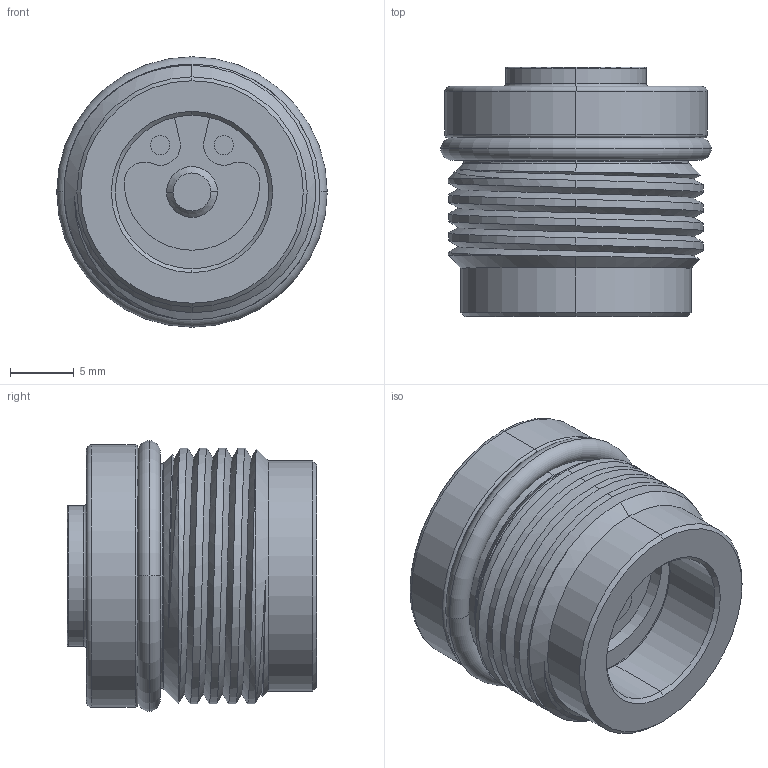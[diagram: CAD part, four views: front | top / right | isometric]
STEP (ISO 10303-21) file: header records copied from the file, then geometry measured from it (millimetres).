
FILE_DESCRIPTION (( 'STEP AP203' ), '1' );
FILE_NAME ('内藏式无泄漏-母头.STEP', '2020-05-18T03:30:19', ( '' ), ( '' ), 'SwSTEP 2.0', 'SolidWorks 2018', '' );
FILE_SCHEMA (( 'CONFIG_CONTROL_DESIGN' ));
Length unit declared in the file: millimetre
Products named in the file (1): 内藏式无泄漏-母头
Bounding box: 21.15 x 19.5 x 21.15 mm (x, y, z)
Volume: 4759.8 mm3; surface area: 2913.9 mm2
Topology: 3 solids, 3 shells, 109 faces, 242 edges, 148 vertices
Faces by surface type: cylinder 50, torus 20, cone 20, plane 17, bspline 2
Entity records: 3994 total; most frequent: CARTESIAN_POINT 1454, DIRECTION 571, ORIENTED_EDGE 484, AXIS2_PLACEMENT_3D 248, EDGE_CURVE 242, VERTEX_POINT 148, CIRCLE 140, EDGE_LOOP 124
